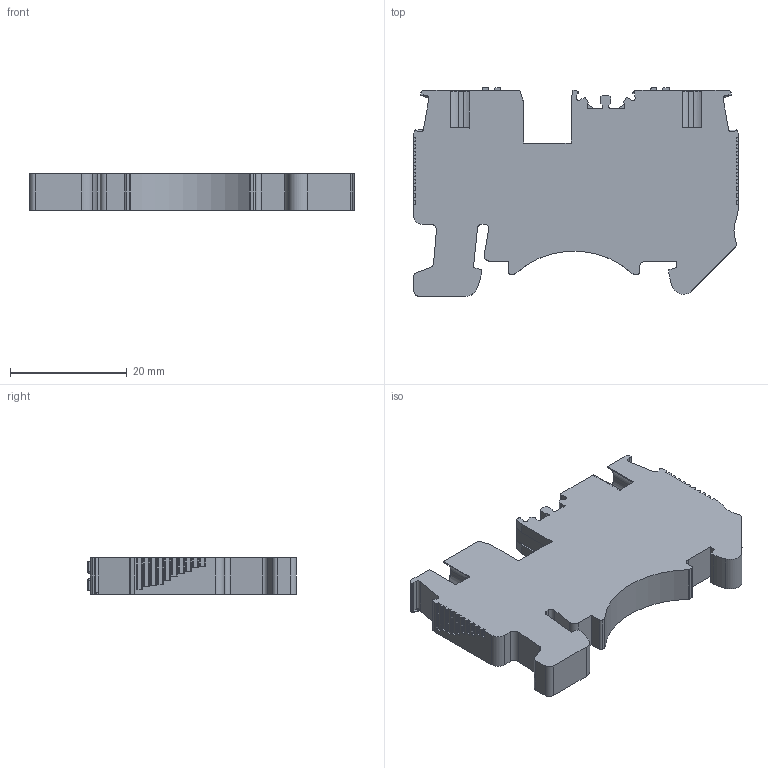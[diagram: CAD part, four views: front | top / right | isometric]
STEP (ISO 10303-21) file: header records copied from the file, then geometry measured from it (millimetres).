
FILE_DESCRIPTION((''),'2;1');
FILE_NAME('PRT0017','2020-04-10T',('Administrator'),(''),'PRO/ENGINEER BY PARAMETRIC TECHNOLOGY CORPORATION, 2010280','PRO/ENGINEER BY PARAMETRIC TECHNOLOGY CORPORATION, 2010280','');
FILE_SCHEMA(('CONFIG_CONTROL_DESIGN'));
Length unit declared in the file: millimetre
Products named in the file (1): PRT0017
Bounding box: 55.6 x 35.73 x 6.2 mm (x, y, z)
Volume: 8766.4 mm3; surface area: 5244.6 mm2
Topology: 1 solids, 1 shells, 550 faces, 1562 edges, 1001 vertices
Faces by surface type: plane 358, cylinder 147, torus 21, sphere 18, cone 4, bspline 2
Entity records: 18135 total; most frequent: CARTESIAN_POINT 3841, ORIENTED_EDGE 3092, DIRECTION 2863, EDGE_CURVE 1546, VECTOR 1125, LINE 1125, VERTEX_POINT 1001, AXIS2_PLACEMENT_3D 869
